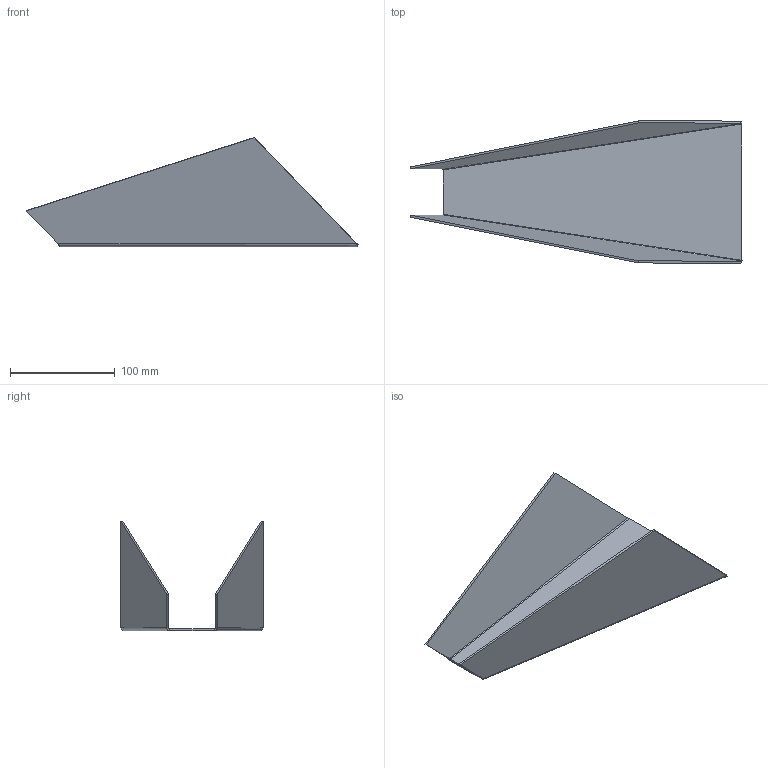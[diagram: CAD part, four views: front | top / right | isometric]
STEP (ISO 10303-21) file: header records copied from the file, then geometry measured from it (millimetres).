
FILE_DESCRIPTION(/* description */ ('Alibre Inc.'),/* implementation_level */ '2;1');
FILE_NAME(/* name */ 'export0',/* time_stamp */ '2010-04-28T19:58:59+02:00',/* author */ (''),/* organization */ (''),/* preprocessor_version */ 'ST-DEVELOPER v10',/* originating_system */ 'Alibre',/* authorisation */ '');
FILE_SCHEMA (('ALIBRE_SCHEMA','CONFIG_CONTROL_DESIGN'));
Length unit declared in the file: centimetre
Products named in the file (1): ID_1
Bounding box: 316.53 x 135.51 x 104.18 mm (x, y, z)
Volume: 129698.3 mm3; surface area: 131737.7 mm2
Topology: 1 solids, 1 shells, 30 faces, 76 edges, 48 vertices
Faces by surface type: plane 18, bspline 8, cylinder 4
Entity records: 2545 total; most frequent: CARTESIAN_POINT 487, DIRECTION 200, ORIENTED_EDGE 152, VECTOR 126, LINE 98, REFERENCEDEPENDENTUV 93, EDGE_CURVE 76, PERSISTANTTOPOLOGYATTRIBUTE 73
